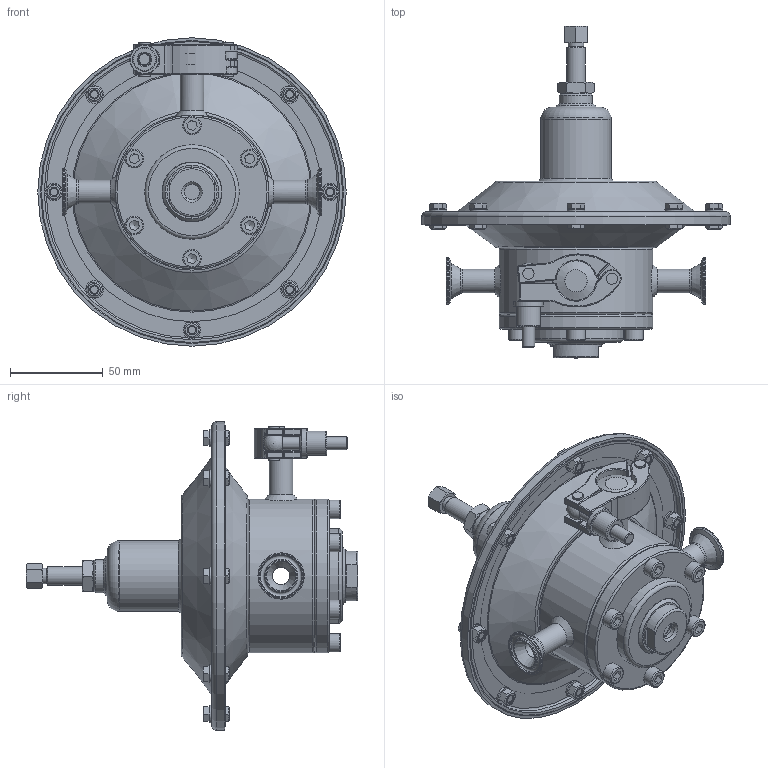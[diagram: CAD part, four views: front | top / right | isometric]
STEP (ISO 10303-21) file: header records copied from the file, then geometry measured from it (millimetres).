
FILE_DESCRIPTION(/* description */ (''),/* implementation_level */ '2;1');
FILE_NAME(/* name */ 'U:/FSS/CAD/RTCN/B-RTCN-06x.step',/* time_stamp */ '2020-03-04T09:01:01+01:00',/* author */ (''),/* organization */ (''),/* preprocessor_version */ 'ST-DEVELOPER v18',/* originating_system */ 'Autodesk Translation Framework v8.12.0.6',/* authorisation */ '');
FILE_SCHEMA (('AUTOMOTIVE_DESIGN { 1 0 10303 214 3 1 1 }'));
Length unit declared in the file: millimetre
Products named in the file (36): (Nicht gespeichert); C58242; C58242_Saldature; P20590; P37158; P37158_1; P37157_1; P64024; P34196; 0PT3AT010; 0PT3AT010_VITE; 0PT3AT010_MORSA; 0PT3AT010_MORSA_1; 0PT3ATO10_DADO; 0PT3AT010_PERNO; 0PU3AT030; 0GEQ000001; P23036; P23029; P37110; 0DN11400; P43123; C51004; C51004_Saldature; P64016; P21039; P38058; 0DC10410; 0DC10410_1; 0DC10410_2; 0DC10410_3; 0DC10410_4; 0DC10410_5; 0DB10307_6; 0DM20300; 0DQ20300
Assembly tree (65 placements, depth 3):
  (Nicht gespeichert)
    C58242
      C58242_Saldature
      P20590
      P37158
      P37158_1
      P37157_1
    P64024
    P34196
    0PT3AT010
      0PT3AT010_VITE
      0PT3AT010_MORSA
      0PT3AT010_MORSA_1
      0PT3ATO10_DADO
      0PT3AT010_PERNO  x2
    0PU3AT030
    0GEQ000001
    P23036
    P23029
    P37110
    0DN11400
    P43123
    C51004
      C51004_Saldature
      P64016
      P21039
      P38058
    0DC10410
    0DC10410_1
    0DC10410_2
    0DC10410_3
    0DC10410_4
    0DC10410_5
    0DB10307_6  x8
    0DM20300  x8
    0DQ20300  x16
Bounding box: 166.5 x 179.17 x 166.5 mm (x, y, z)
Volume: 120830.6 mm3; surface area: 190200.5 mm2
Topology: 65 solids, 65 shells, 984 faces, 2490 edges, 1649 vertices
Faces by surface type: plane 360, cylinder 284, cone 152, torus 146, sphere 23, bspline 19
Full cylindrical faces by diameter (mm): 4.134 x9, 5 x10, 5.2 x3, 5.3 x16, 5.5 x16, 6 x30, 6.5 x6, 6.88 x8, 6.9 x2, 8.3 x1, 8.566 x1, 8.917 x2, 9.4 x3, 9.5 x17, 10 x7, 12.7 x9, 13 x1, 14.9 x1, 15 x1, 15.9 x1, 18 x2, 19.5 x1, 21.9 x2, 22 x1, 25 x4, 27 x1, 30.376 x1, 32 x1, 37 x1, 38.2 x2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
Entity records: 26819 total; most frequent: CARTESIAN_POINT 7481, DIRECTION 4261, ORIENTED_EDGE 3674, AXIS2_PLACEMENT_3D 1886, EDGE_CURVE 1837, VERTEX_POINT 1241, CIRCLE 1105, EDGE_LOOP 862
